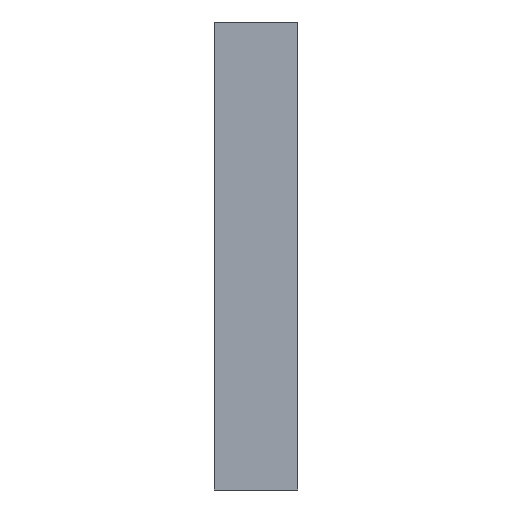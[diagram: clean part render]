
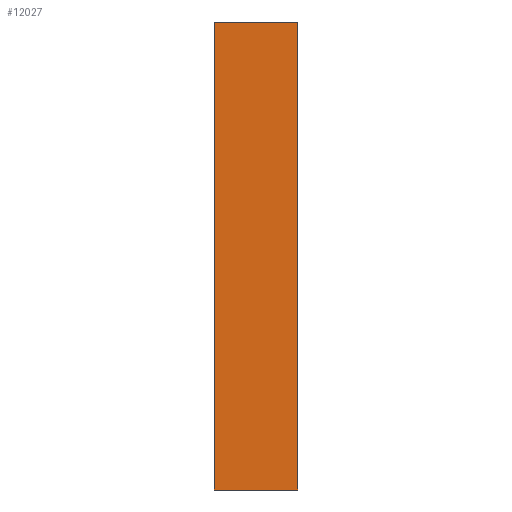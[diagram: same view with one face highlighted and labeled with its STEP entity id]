
A CAD part, left-side view. The second image highlights one B-rep face of the part: STEP entity #12027.
In plain terms, the highlighted planar face has unit normal (-1, 0, 0).
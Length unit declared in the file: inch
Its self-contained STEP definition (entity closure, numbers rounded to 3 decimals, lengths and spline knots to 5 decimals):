
#476 = CARTESIAN_POINT ( 'NONE',  ( -26.28971, 58.62898, 7.78971 ) ) ;
#616 = LINE ( 'NONE', #41045, #17812 ) ;
#875 = ORIENTED_EDGE ( 'NONE', *, *, #12524, .T. ) ;
#1005 = VERTEX_POINT ( 'NONE', #47175 ) ;
#1656 = DIRECTION ( 'NONE',  ( 0., 0., 1. ) ) ;
#3026 = CARTESIAN_POINT ( 'NONE',  ( -26.28971, 0., -7.78971 ) ) ;
#3205 = CARTESIAN_POINT ( 'NONE',  ( -26.28971, 58.62898, -7.78971 ) ) ;
#3890 = EDGE_LOOP ( 'NONE', ( #32895, #875, #22963, #6696 ) ) ;
#4359 = VERTEX_POINT ( 'NONE', #36758 ) ;
#6696 = ORIENTED_EDGE ( 'NONE', *, *, #36667, .F. ) ;
#7654 = VECTOR ( 'NONE', #40898, 39.37008 ) ;
#9358 = LINE ( 'NONE', #476, #7654 ) ;
#10001 = VERTEX_POINT ( 'NONE', #3026 ) ;
#12027 = ADVANCED_FACE ( 'NONE', ( #44840 ), #41190, .T. ) ;
#12524 = EDGE_CURVE ( 'NONE', #47259, #10001, #43116, .T. ) ;
#13091 = EDGE_CURVE ( 'NONE', #1005, #10001, #31509, .T. ) ;
#13306 = CARTESIAN_POINT ( 'NONE',  ( -26.28971, 58.62898, 7.78971 ) ) ;
#13480 = AXIS2_PLACEMENT_3D ( 'NONE', #13306, #21398, #45877 ) ;
#15086 = DIRECTION ( 'NONE',  ( 0., 0., -1. ) ) ;
#15898 = VECTOR ( 'NONE', #15086, 39.37008 ) ;
#17812 = VECTOR ( 'NONE', #1656, 39.37008 ) ;
#18806 = CARTESIAN_POINT ( 'NONE',  ( -26.28971, 2.79, -7.78971 ) ) ;
#21398 = DIRECTION ( 'NONE',  ( -1., 0., 0. ) ) ;
#21732 = VECTOR ( 'NONE', #35006, 39.37008 ) ;
#22963 = ORIENTED_EDGE ( 'NONE', *, *, #13091, .F. ) ;
#23838 = EDGE_CURVE ( 'NONE', #47259, #4359, #616, .T. ) ;
#31509 = LINE ( 'NONE', #47172, #15898 ) ;
#32895 = ORIENTED_EDGE ( 'NONE', *, *, #23838, .F. ) ;
#35006 = DIRECTION ( 'NONE',  ( 0., -1., 0. ) ) ;
#36667 = EDGE_CURVE ( 'NONE', #4359, #1005, #9358, .T. ) ;
#36758 = CARTESIAN_POINT ( 'NONE',  ( -26.28971, 2.79, 7.78971 ) ) ;
#40898 = DIRECTION ( 'NONE',  ( 0., -1., 0. ) ) ;
#41045 = CARTESIAN_POINT ( 'NONE',  ( -26.28971, 2.79, 7.78971 ) ) ;
#41190 = PLANE ( 'NONE',  #13480 ) ;
#43116 = LINE ( 'NONE', #3205, #21732 ) ;
#44840 = FACE_OUTER_BOUND ( 'NONE', #3890, .T. ) ;
#45877 = DIRECTION ( 'NONE',  ( 0., 0., 1. ) ) ;
#47172 = CARTESIAN_POINT ( 'NONE',  ( -26.28971, 0., 7.78971 ) ) ;
#47175 = CARTESIAN_POINT ( 'NONE',  ( -26.28971, 0., 7.78971 ) ) ;
#47259 = VERTEX_POINT ( 'NONE', #18806 ) ;
